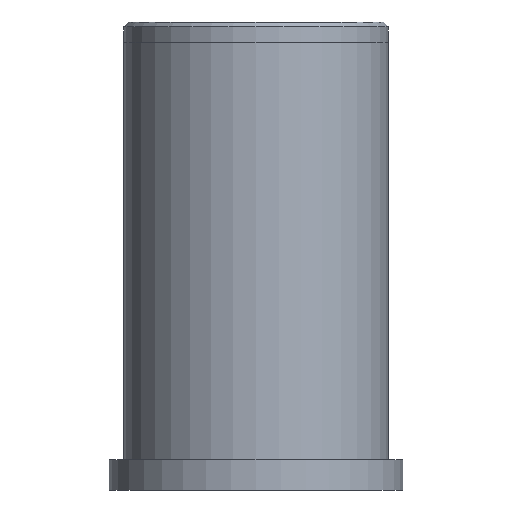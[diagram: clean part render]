
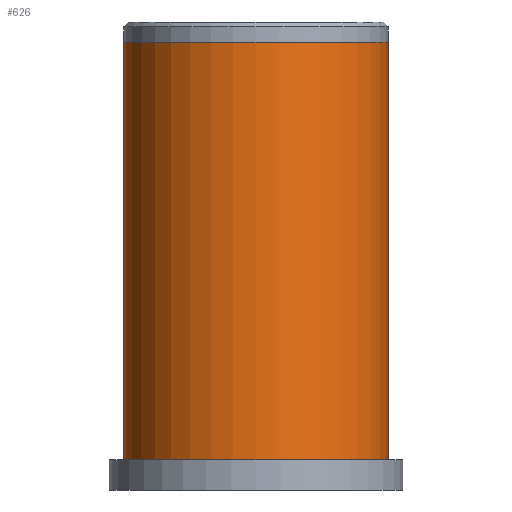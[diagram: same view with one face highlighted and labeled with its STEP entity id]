
A CAD part, front view. The second image highlights one B-rep face of the part: STEP entity #626.
In plain terms, the highlighted cylindrical face has radius 20.644 mm (diameter 41.288 mm), a full revolution.
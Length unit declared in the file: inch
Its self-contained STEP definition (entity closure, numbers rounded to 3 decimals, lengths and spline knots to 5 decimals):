
#22 = CARTESIAN_POINT ( 'NONE',  ( 0., 0., 0. ) ) ;
#427 = AXIS2_PLACEMENT_3D ( 'NONE', #2325, #2843, #3799 ) ;
#447 = CIRCLE ( 'NONE', #896, 0.81275 ) ;
#626 = ADVANCED_FACE ( 'NONE', ( #1317, #1460 ), #2013, .T. ) ;
#670 = EDGE_CURVE ( 'NONE', #2169, #2169, #943, .T. ) ;
#709 = ORIENTED_EDGE ( 'NONE', *, *, #670, .T. ) ;
#896 = AXIS2_PLACEMENT_3D ( 'NONE', #926, #2405, #1825 ) ;
#926 = CARTESIAN_POINT ( 'NONE',  ( 0., 0., 0.187 ) ) ;
#943 = CIRCLE ( 'NONE', #427, 0.81275 ) ;
#1163 = VERTEX_POINT ( 'NONE', #3115 ) ;
#1317 = FACE_OUTER_BOUND ( 'NONE', #1937, .T. ) ;
#1460 = FACE_OUTER_BOUND ( 'NONE', #3724, .T. ) ;
#1825 = DIRECTION ( 'NONE',  ( -1., 0., 0. ) ) ;
#1937 = EDGE_LOOP ( 'NONE', ( #2961 ) ) ;
#2013 = CYLINDRICAL_SURFACE ( 'NONE', #3727, 0.81275 ) ;
#2169 = VERTEX_POINT ( 'NONE', #2278 ) ;
#2278 = CARTESIAN_POINT ( 'NONE',  ( -0.81275, 0., 2.75 ) ) ;
#2325 = CARTESIAN_POINT ( 'NONE',  ( 0., 0., 2.75 ) ) ;
#2405 = DIRECTION ( 'NONE',  ( 0., 0., -1. ) ) ;
#2492 = EDGE_CURVE ( 'NONE', #1163, #1163, #447, .T. ) ;
#2843 = DIRECTION ( 'NONE',  ( 0., 0., -1. ) ) ;
#2948 = DIRECTION ( 'NONE',  ( -1., 0., 0. ) ) ;
#2961 = ORIENTED_EDGE ( 'NONE', *, *, #2492, .F. ) ;
#3115 = CARTESIAN_POINT ( 'NONE',  ( -0.81275, 0., 0.187 ) ) ;
#3530 = DIRECTION ( 'NONE',  ( 0., 0., -1. ) ) ;
#3724 = EDGE_LOOP ( 'NONE', ( #709 ) ) ;
#3727 = AXIS2_PLACEMENT_3D ( 'NONE', #22, #3530, #2948 ) ;
#3799 = DIRECTION ( 'NONE',  ( -1., 0., 0. ) ) ;
